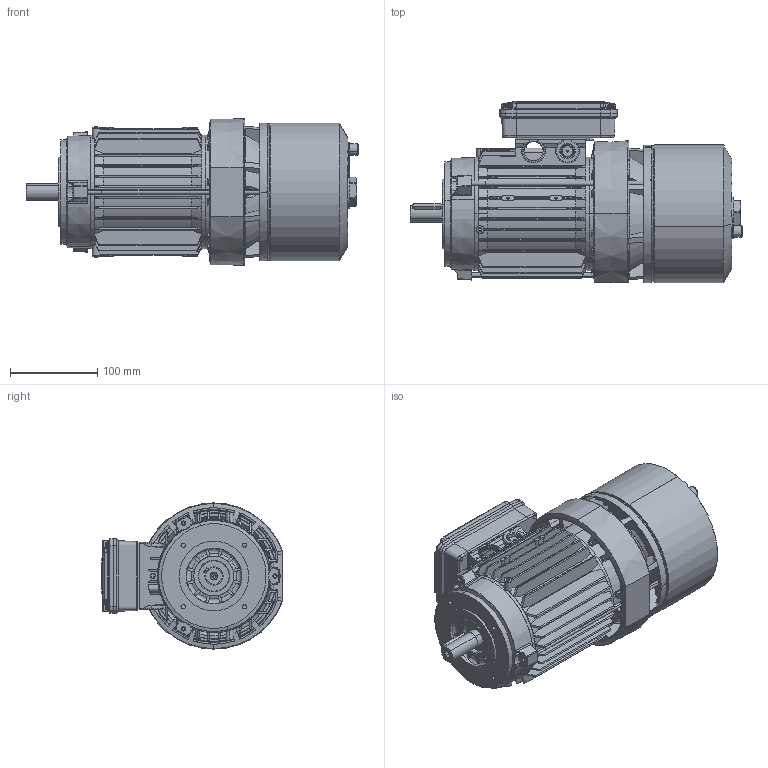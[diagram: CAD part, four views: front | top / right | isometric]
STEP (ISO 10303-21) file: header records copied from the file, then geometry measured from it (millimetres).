
FILE_DESCRIPTION (( 'STEP AP214' ), '1' );
FILE_NAME ('M02DC0010.STEP', '2018-11-06T14:23:37', ( '' ), ( '' ), 'SwSTEP 2.0', 'SolidWorks 2018', '' );
FILE_SCHEMA (( 'AUTOMOTIVE_DESIGN' ));
Length unit declared in the file: millimetre
Products named in the file (16): Albero BA 80; Cuffia serie BA 80; Convogliatore con pista d''attrito P2 BA80; Scudo Lato Freno BA80 P1; Carcassa 80 B5; M02DC0010; Scatola per Morsettiera Doppia 63-71-80 - Completa; Guarnizione Scatola Singola 63-71-80; Vite per coperchio morsettiera; Coperchio per Scatola per Morsettiera Doppia 63-71-80; Scatola per Morsettiera Doppia 63-71-80; O-ring freno BA80; Vite a Testa Esagona con foro e tappo 71-112 - Modificata; Tirante BA 80 - DBA60094; Scudo a flangia B14 BA-BM 80 - DCAC0194; Chiavetta 80
Assembly tree (20 placements, depth 3):
  M02DC0010
    Carcassa 80 B5
    Scudo Lato Freno BA80 P1
    Convogliatore con pista d''attrito P2 BA80
    Cuffia serie BA 80
    Albero BA 80
    Chiavetta 80
    Scudo a flangia B14 BA-BM 80 - DCAC0194
    Tirante BA 80 - DBA60094  x3
    Vite a Testa Esagona con foro e tappo 71-112 - Modificata
    O-ring freno BA80
    Scatola per Morsettiera Doppia 63-71-80 - Completa
      Scatola per Morsettiera Doppia 63-71-80
      Coperchio per Scatola per Morsettiera Doppia 63-71-80
      Vite per coperchio morsettiera  x4
      Guarnizione Scatola Singola 63-71-80
Bounding box: 381.06 x 208.69 x 168 mm (x, y, z)
Volume: 1218458.9 mm3; surface area: 737534.5 mm2
Topology: 22 solids, 22 shells, 2907 faces, 7973 edges, 5091 vertices
Faces by surface type: plane 961, cylinder 895, cone 410, torus 374, bspline 259, sphere 8
Entity records: 104298 total; most frequent: CARTESIAN_POINT 37626, ORIENTED_EDGE 14836, DIRECTION 12487, EDGE_CURVE 7418, AXIS2_PLACEMENT_3D 4874, VERTEX_POINT 4777, EDGE_LOOP 2853, LINE 2739
